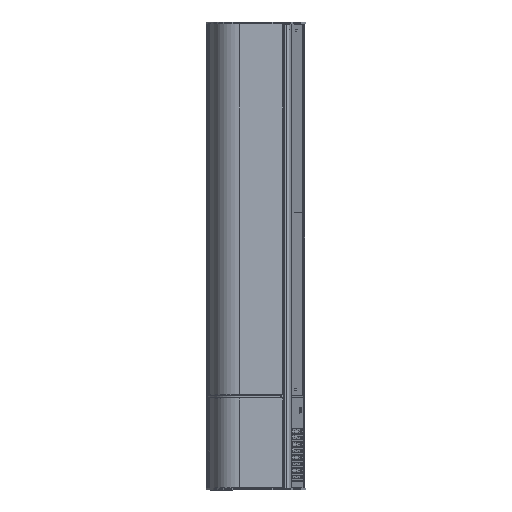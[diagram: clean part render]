
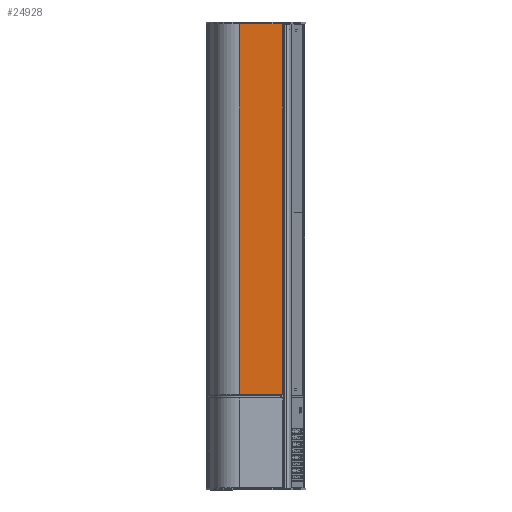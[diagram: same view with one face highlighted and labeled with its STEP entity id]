
A CAD part, top view. The second image highlights one B-rep face of the part: STEP entity #24928.
In plain terms, the highlighted planar face has unit normal (-0.002, 0, 1) as drawn and (1, 0, 0) by its records, which use the part's own axes.
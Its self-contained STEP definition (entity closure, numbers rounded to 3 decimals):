
#1357=LINE('',#37695,#4322);
#1358=LINE('',#37698,#4323);
#1359=LINE('',#37700,#4324);
#1360=LINE('',#37702,#4325);
#4322=VECTOR('',#31016,1000.);
#4323=VECTOR('',#31017,1000.);
#4324=VECTOR('',#31018,1000.);
#4325=VECTOR('',#31019,1000.);
#8654=ORIENTED_EDGE('',*,*,#14723,.T.);
#8655=ORIENTED_EDGE('',*,*,#14724,.T.);
#8656=ORIENTED_EDGE('',*,*,#14725,.F.);
#8657=ORIENTED_EDGE('',*,*,#14726,.T.);
#14723=EDGE_CURVE('',#17941,#17942,#1357,.T.);
#14724=EDGE_CURVE('',#17942,#17943,#1358,.T.);
#14725=EDGE_CURVE('',#17944,#17943,#1359,.T.);
#14726=EDGE_CURVE('',#17944,#17941,#1360,.T.);
#17941=VERTEX_POINT('',#37696);
#17942=VERTEX_POINT('',#37697);
#17943=VERTEX_POINT('',#37699);
#17944=VERTEX_POINT('',#37701);
#20620=EDGE_LOOP('',(#8654,#8655,#8656,#8657));
#22335=FACE_BOUND('',#20620,.T.);
#23822=PLANE('',#27724);
#24928=ADVANCED_FACE('',(#22335),#23822,.F.);
#27724=AXIS2_PLACEMENT_3D('',#37694,#31014,#31015);
#31014=DIRECTION('',(-1.,0.,0.));
#31015=DIRECTION('',(0.,0.,1.));
#31016=DIRECTION('',(0.,1.,0.));
#31017=DIRECTION('',(0.,0.,1.));
#31018=DIRECTION('',(0.,1.,0.));
#31019=DIRECTION('',(0.,0.,-1.));
#37694=CARTESIAN_POINT('',(155.706,-713.,-285.499));
#37695=CARTESIAN_POINT('',(155.706,-713.,-284.499));
#37696=CARTESIAN_POINT('',(155.706,-712.,-284.499));
#37697=CARTESIAN_POINT('',(155.706,712.,-284.499));
#37698=CARTESIAN_POINT('',(155.706,712.,-285.499));
#37699=CARTESIAN_POINT('',(155.706,712.,-118.454));
#37700=CARTESIAN_POINT('',(155.706,-713.,-118.454));
#37701=CARTESIAN_POINT('',(155.706,-712.,-118.454));
#37702=CARTESIAN_POINT('',(155.706,-712.,-285.499));
